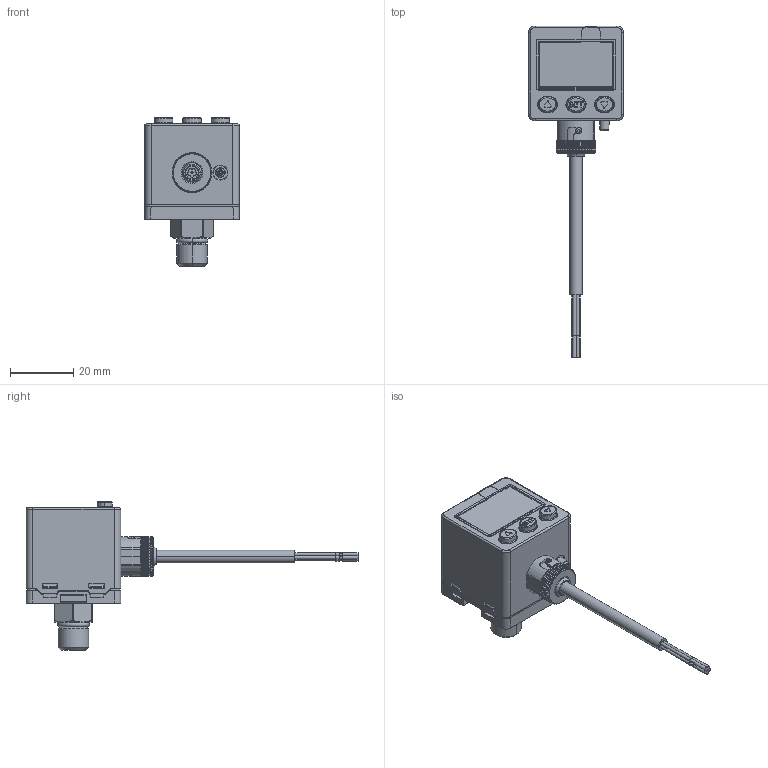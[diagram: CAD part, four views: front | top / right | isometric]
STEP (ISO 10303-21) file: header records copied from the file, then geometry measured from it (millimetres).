
FILE_DESCRIPTION((''),'2;1');
FILE_NAME('KP45X-X-F3','2019-07-05T',('Stark'),(''),'CREO PARAMETRIC BY PTC INC, 2014500','CREO PARAMETRIC BY PTC INC, 2014500','');
FILE_SCHEMA(('CONFIG_CONTROL_DESIGN'));
Products named in the file (1): KP45X-X-F3
Bounding box: 30.08 x 105.34 x 47.2 mm (x, y, z)
Volume: 29818.1 mm3; surface area: 9087.5 mm2
Topology: 1 solids, 23 shells, 1086 faces, 2800 edges, 1808 vertices
Faces by surface type: plane 427, cylinder 349, cone 142, bspline 128, torus 26, extrusion 10, sphere 4
Entity records: 51166 total; most frequent: CARTESIAN_POINT 26614, ORIENTED_EDGE 5596, DIRECTION 4259, EDGE_CURVE 2798, VERTEX_POINT 1808, AXIS2_PLACEMENT_3D 1478, VECTOR 1303, LINE 1293
